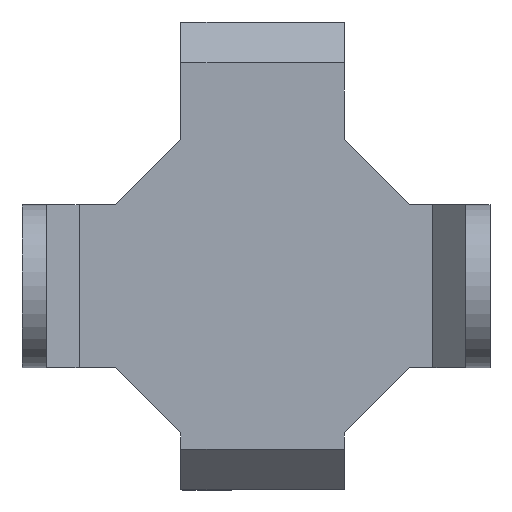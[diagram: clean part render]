
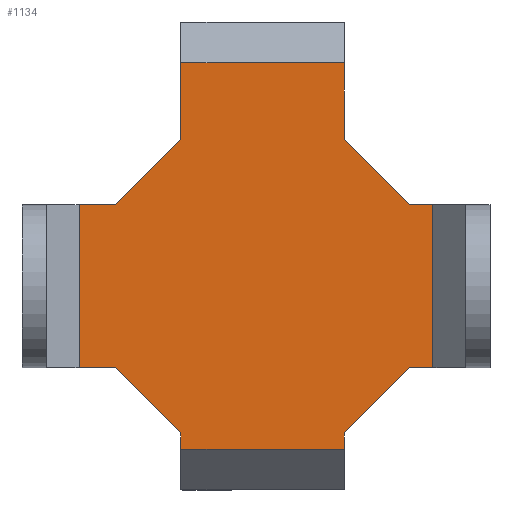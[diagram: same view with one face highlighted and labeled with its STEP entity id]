
A CAD part, left-side view. The second image highlights one B-rep face of the part: STEP entity #1134.
In plain terms, the highlighted planar face has unit normal (-1, 0, 0).
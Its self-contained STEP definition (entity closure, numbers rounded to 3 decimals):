
#132=FACE_OUTER_BOUND('',#194,.T.);
#194=EDGE_LOOP('',(#808,#809,#810,#811,#812,#813,#814,#815,#816,#817,#818,
#819,#820,#821,#822,#823));
#282=LINE('',#1624,#395);
#291=LINE('',#1641,#404);
#294=LINE('',#1661,#407);
#297=LINE('',#1667,#410);
#305=LINE('',#1683,#418);
#306=LINE('',#1685,#419);
#307=LINE('',#1687,#420);
#308=LINE('',#1689,#421);
#309=LINE('',#1690,#422);
#310=LINE('',#1692,#423);
#311=LINE('',#1694,#424);
#312=LINE('',#1696,#425);
#313=LINE('',#1698,#426);
#314=LINE('',#1700,#427);
#315=LINE('',#1702,#428);
#316=LINE('',#1703,#429);
#395=VECTOR('',#1298,10.);
#404=VECTOR('',#1309,10.);
#407=VECTOR('',#1328,10.);
#410=VECTOR('',#1333,10.);
#418=VECTOR('',#1343,10.);
#419=VECTOR('',#1344,10.);
#420=VECTOR('',#1345,10.);
#421=VECTOR('',#1346,10.);
#422=VECTOR('',#1347,10.);
#423=VECTOR('',#1348,10.);
#424=VECTOR('',#1349,10.);
#425=VECTOR('',#1350,10.);
#426=VECTOR('',#1351,10.);
#427=VECTOR('',#1352,10.);
#428=VECTOR('',#1353,10.);
#429=VECTOR('',#1354,10.);
#508=VERTEX_POINT('',#1621);
#509=VERTEX_POINT('',#1623);
#516=VERTEX_POINT('',#1639);
#524=VERTEX_POINT('',#1658);
#525=VERTEX_POINT('',#1660);
#527=VERTEX_POINT('',#1666);
#534=VERTEX_POINT('',#1682);
#535=VERTEX_POINT('',#1684);
#536=VERTEX_POINT('',#1686);
#537=VERTEX_POINT('',#1688);
#538=VERTEX_POINT('',#1691);
#539=VERTEX_POINT('',#1693);
#540=VERTEX_POINT('',#1695);
#541=VERTEX_POINT('',#1697);
#542=VERTEX_POINT('',#1699);
#543=VERTEX_POINT('',#1701);
#614=EDGE_CURVE('',#508,#509,#282,.T.);
#623=EDGE_CURVE('',#508,#516,#291,.T.);
#632=EDGE_CURVE('',#524,#525,#294,.T.);
#635=EDGE_CURVE('',#527,#525,#297,.T.);
#643=EDGE_CURVE('',#534,#516,#305,.T.);
#644=EDGE_CURVE('',#534,#535,#306,.T.);
#645=EDGE_CURVE('',#536,#535,#307,.T.);
#646=EDGE_CURVE('',#536,#537,#308,.T.);
#647=EDGE_CURVE('',#527,#537,#309,.T.);
#648=EDGE_CURVE('',#524,#538,#310,.T.);
#649=EDGE_CURVE('',#539,#538,#311,.T.);
#650=EDGE_CURVE('',#539,#540,#312,.T.);
#651=EDGE_CURVE('',#541,#540,#313,.T.);
#652=EDGE_CURVE('',#541,#542,#314,.T.);
#653=EDGE_CURVE('',#543,#542,#315,.T.);
#654=EDGE_CURVE('',#543,#509,#316,.T.);
#808=ORIENTED_EDGE('',*,*,#614,.F.);
#809=ORIENTED_EDGE('',*,*,#623,.T.);
#810=ORIENTED_EDGE('',*,*,#643,.F.);
#811=ORIENTED_EDGE('',*,*,#644,.T.);
#812=ORIENTED_EDGE('',*,*,#645,.F.);
#813=ORIENTED_EDGE('',*,*,#646,.T.);
#814=ORIENTED_EDGE('',*,*,#647,.F.);
#815=ORIENTED_EDGE('',*,*,#635,.T.);
#816=ORIENTED_EDGE('',*,*,#632,.F.);
#817=ORIENTED_EDGE('',*,*,#648,.T.);
#818=ORIENTED_EDGE('',*,*,#649,.F.);
#819=ORIENTED_EDGE('',*,*,#650,.T.);
#820=ORIENTED_EDGE('',*,*,#651,.F.);
#821=ORIENTED_EDGE('',*,*,#652,.T.);
#822=ORIENTED_EDGE('',*,*,#653,.F.);
#823=ORIENTED_EDGE('',*,*,#654,.T.);
#1101=PLANE('',#1199);
#1134=ADVANCED_FACE('',(#132),#1101,.T.);
#1199=AXIS2_PLACEMENT_3D('',#1681,#1341,#1342);
#1298=DIRECTION('',(0.,1.,0.));
#1309=DIRECTION('',(0.,0.,1.));
#1328=DIRECTION('',(0.,-1.,0.));
#1333=DIRECTION('',(0.,0.,1.));
#1341=DIRECTION('center_axis',(-1.,0.,0.));
#1342=DIRECTION('ref_axis',(0.,0.,1.));
#1343=DIRECTION('',(0.,0.707,-0.707));
#1344=DIRECTION('',(0.,-1.,0.));
#1345=DIRECTION('',(0.,0.,-1.));
#1346=DIRECTION('',(0.,1.,0.));
#1347=DIRECTION('',(0.,-0.707,-0.707));
#1348=DIRECTION('',(0.,0.,-1.));
#1349=DIRECTION('',(0.,-0.707,0.707));
#1350=DIRECTION('',(0.,1.,0.));
#1351=DIRECTION('',(0.,0.,1.));
#1352=DIRECTION('',(0.,-1.,0.));
#1353=DIRECTION('',(0.,0.707,0.707));
#1354=DIRECTION('',(0.,0.,-1.));
#1621=CARTESIAN_POINT('',(24.,-10.,-20.));
#1623=CARTESIAN_POINT('',(24.,10.,-20.));
#1624=CARTESIAN_POINT('',(24.,0.4,-20.));
#1639=CARTESIAN_POINT('',(24.,-10.,-18.));
#1641=CARTESIAN_POINT('',(24.,-10.,-14.633));
#1658=CARTESIAN_POINT('',(24.,10.,27.4));
#1660=CARTESIAN_POINT('',(24.,-10.,27.4));
#1661=CARTESIAN_POINT('',(24.,0.4,27.4));
#1666=CARTESIAN_POINT('',(24.,-10.,18.));
#1667=CARTESIAN_POINT('',(24.,-10.,12.567));
#1681=CARTESIAN_POINT('Origin',(24.,0.8,0.233));
#1682=CARTESIAN_POINT('',(24.,-18.,-10.));
#1683=CARTESIAN_POINT('',(24.,-13.858,-14.142));
#1684=CARTESIAN_POINT('',(24.,-20.9,-10.));
#1685=CARTESIAN_POINT('',(24.,-12.05,-10.));
#1686=CARTESIAN_POINT('',(24.,-20.9,10.));
#1687=CARTESIAN_POINT('',(24.,-20.9,0.117));
#1688=CARTESIAN_POINT('',(24.,-18.,10.));
#1689=CARTESIAN_POINT('',(24.,-12.05,10.));
#1690=CARTESIAN_POINT('',(24.,-13.742,14.258));
#1691=CARTESIAN_POINT('',(24.,10.,18.));
#1692=CARTESIAN_POINT('',(24.,10.,12.567));
#1693=CARTESIAN_POINT('',(24.,18.,10.));
#1694=CARTESIAN_POINT('',(24.,14.142,13.858));
#1695=CARTESIAN_POINT('',(24.,22.5,10.));
#1696=CARTESIAN_POINT('',(24.,-12.05,10.));
#1697=CARTESIAN_POINT('',(24.,22.5,-10.));
#1698=CARTESIAN_POINT('',(24.,22.5,0.117));
#1699=CARTESIAN_POINT('',(24.,18.,-10.));
#1700=CARTESIAN_POINT('',(24.,-12.05,-10.));
#1701=CARTESIAN_POINT('',(24.,10.,-18.));
#1702=CARTESIAN_POINT('',(24.,14.258,-13.742));
#1703=CARTESIAN_POINT('',(24.,10.,-14.633));
